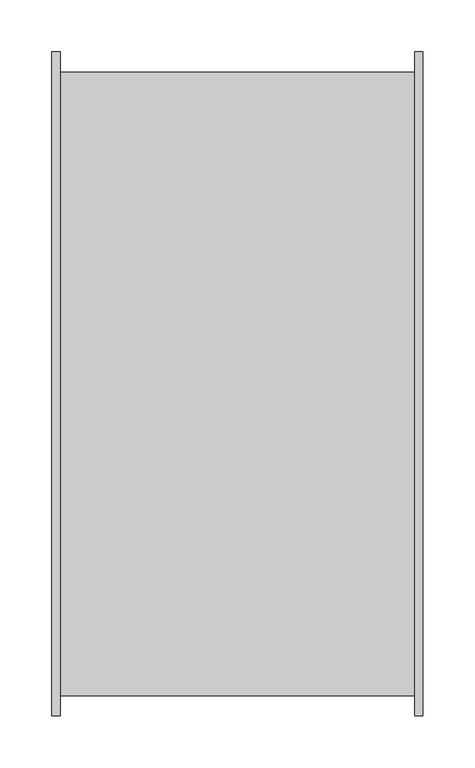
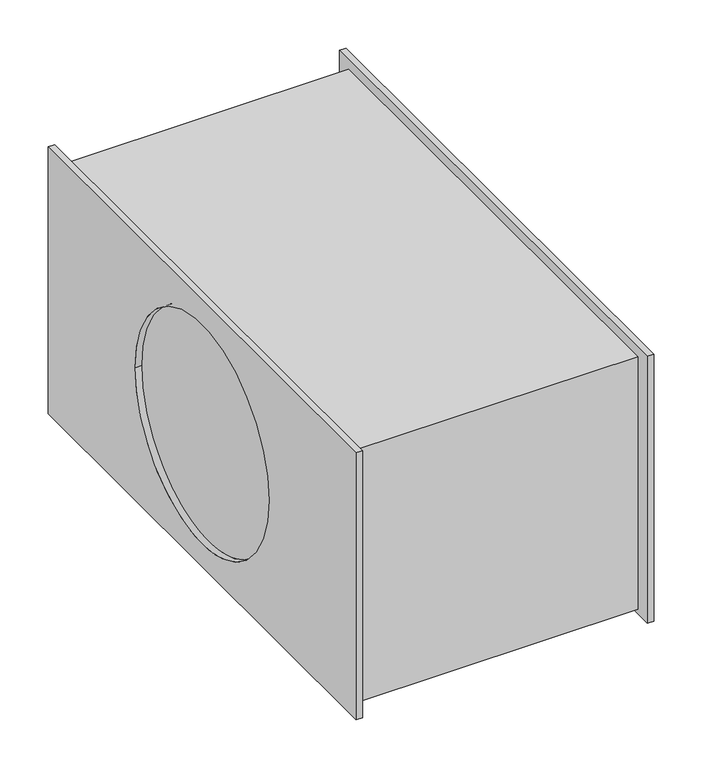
"""IFC4 building model written with IfcOpenShell, lengths in millimetres: unitary equipment geometry, VE-Wentylator-ParaForma-Harmann-JETTEC_REC-Nawiewny : 060/30/2400S."""

from ifc_helpers import new_model, si_unit, frame, origin, place, context, project, spatial, polyline, circle_curve, source, transform, mapped, element, save
from ifc_brep_helpers import plane_surface, revolved_surface, advanced_brep


def unitary_equipment_d5b170d1(model_context):
    return source(origin(), model_context, "Body", "AdvancedBrep", [
        advanced_brep(
        [(170.5, -319.5, -168.0), (170.5, -319.5, 170.0), (170.5, 319.5, 170.0), (170.5, 319.5, -168.0), (170.5, -300.0, 158.0), (170.5, -300.0, -162.0), (170.5, 300.0, -162.0), (170.5, 300.0, 158.0), (178.5, -319.5, -168.0), (178.5, 319.5, -168.0), (178.5, 319.5, 170.0), (178.5, -319.5, 170.0), (178.5, -138.75, 0.0), (178.5, 138.75, 0.0), (170.5, 138.75, 0.0), (170.5, -138.75, 0.0), (-170.5, -138.75, 0.0), (-170.5, 138.75, 0.0), (-170.5, -300.0, -162.0), (-170.5, -300.0, 158.0), (-170.5, 300.0, 158.0), (-170.5, 300.0, -162.0), (-178.5, -319.5, -168.0), (-178.5, -319.5, 170.0), (-178.5, 319.5, 170.0), (-178.5, 319.5, -168.0), (-178.5, 138.75, 0.0), (-178.5, -138.75, 0.0), (-170.5, -319.5, -168.0), (-170.5, 319.5, -168.0), (-170.5, 319.5, 170.0), (-170.5, -319.5, 170.0)],
        [
            (0, 1),
            (1, 2),
            (2, 3),
            (3, 0),
            (4, 5),
            (5, 6),
            (6, 7),
            (7, 4),
            (8, 9),
            (9, 10),
            (10, 11),
            (11, 8),
            (12, 13, circle_curve(frame((178.5, 0.0, 0.0), z_axis=(-1.0, 0.0, 0.0), x_axis=(0.0, 1.0, 0.0)), 138.75)),
            (13, 12, circle_curve(frame((178.5, 0.0, 0.0), z_axis=(-1.0, 0.0, 0.0), x_axis=(0.0, 1.0, 0.0)), 138.75)),
            (0, 8),
            (11, 1),
            (10, 2),
            (9, 3),
            (14, 13),
            (12, 15),
            (15, 14, circle_curve(frame((170.5, 0.0, 0.0), z_axis=(-1.0, 0.0, 0.0), x_axis=(0.0, 1.0, 0.0)), 138.75)),
            (14, 15, circle_curve(frame((170.5, 0.0, 0.0), z_axis=(-1.0, 0.0, 0.0), x_axis=(0.0, 1.0, 0.0)), 138.75)),
            (16, 17, circle_curve(frame((-170.5, 0.0, 0.0), z_axis=(-1.0, 0.0, 0.0), x_axis=(0.0, 1.0, 0.0)), 138.75)),
            (17, 16, circle_curve(frame((-170.5, 0.0, 0.0), z_axis=(-1.0, 0.0, 0.0), x_axis=(0.0, 1.0, 0.0)), 138.75)),
            (18, 5),
            (4, 19),
            (19, 18),
            (7, 20),
            (20, 19),
            (6, 21),
            (21, 20),
            (18, 21),
            (22, 23),
            (23, 24),
            (24, 25),
            (25, 22),
            (26, 27, circle_curve(frame((-178.5, 0.0, 0.0), z_axis=(1.0, 0.0, 0.0), x_axis=(0.0, 1.0, 0.0)), 138.75)),
            (27, 26, circle_curve(frame((-178.5, 0.0, 0.0), z_axis=(1.0, 0.0, 0.0), x_axis=(0.0, 1.0, 0.0)), 138.75)),
            (28, 29),
            (29, 30),
            (30, 31),
            (31, 28),
            (22, 28),
            (31, 23),
            (30, 24),
            (29, 25),
            (26, 17),
            (16, 27),
        ],
        [
            plane_surface(frame((170.5, 0.0, 0.0), z_axis=(-1.0, 0.0, 0.0), x_axis=(0.0, 0.0, 1.0))),
            plane_surface(frame((178.5, 0.0, 0.0), z_axis=(1.0, 0.0, 0.0), x_axis=(0.0, 0.0, 1.0))),
            plane_surface(frame((170.5, -319.5, -168.0), z_axis=(0.0, -1.0, 0.0), x_axis=(1.0, 0.0, 0.0))),
            plane_surface(frame((170.5, -319.5, 170.0), z_axis=(0.0, 0.0, 1.0), x_axis=(1.0, 0.0, 0.0))),
            plane_surface(frame((170.5, 319.5, 170.0), z_axis=(0.0, 1.0, 0.0), x_axis=(1.0, 0.0, 0.0))),
            plane_surface(frame((170.5, 319.5, -168.0), z_axis=(0.0, 0.0, -1.0), x_axis=(1.0, 0.0, 0.0))),
            revolved_surface(polyline([(170.5, 138.75, 0.0), (178.5, 138.75, 0.0)]), (170.5, 0.0, 0.0), (-1.0, 0.0, 0.0)),
            plane_surface(frame((-170.5, 0.0, 0.0), z_axis=(-1.0, 0.0, 0.0), x_axis=(0.0, 0.0, 1.0))),
            plane_surface(frame((170.5, 0.0, 0.0), z_axis=(1.0, 0.0, 0.0), x_axis=(0.0, 0.0, 1.0))),
            plane_surface(frame((-170.5, -300.0, -162.0), z_axis=(0.0, -1.0, 0.0), x_axis=(1.0, 0.0, 0.0))),
            plane_surface(frame((-170.5, -300.0, 158.0), z_axis=(0.0, 0.0, 1.0), x_axis=(1.0, 0.0, 0.0))),
            plane_surface(frame((-170.5, 300.0, 158.0), z_axis=(0.0, 1.0, 0.0), x_axis=(1.0, 0.0, 0.0))),
            plane_surface(frame((-170.5, 300.0, -162.0), z_axis=(0.0, 0.0, -1.0), x_axis=(1.0, 0.0, 0.0))),
            plane_surface(frame((-178.5, 0.0, 0.0), z_axis=(-1.0, 0.0, 0.0), x_axis=(0.0, 0.0, 1.0))),
            plane_surface(frame((-170.5, 0.0, 0.0), z_axis=(1.0, 0.0, 0.0), x_axis=(0.0, 0.0, 1.0))),
            plane_surface(frame((-178.5, -319.5, -168.0), z_axis=(0.0, -1.0, 0.0), x_axis=(1.0, 0.0, 0.0))),
            plane_surface(frame((-178.5, -319.5, 170.0), z_axis=(0.0, 0.0, 1.0), x_axis=(1.0, 0.0, 0.0))),
            plane_surface(frame((-178.5, 319.5, 170.0), z_axis=(0.0, 1.0, 0.0), x_axis=(1.0, 0.0, 0.0))),
            plane_surface(frame((-178.5, 319.5, -168.0), z_axis=(0.0, 0.0, -1.0), x_axis=(1.0, 0.0, 0.0))),
            revolved_surface(polyline([(-178.5, 138.75, 0.0), (-170.5, 138.75, 0.0)]), (-178.5, 0.0, 0.0), (-1.0, 0.0, 0.0)),
        ],
        [
            (0, [[1, 2, 3, 4], [5, 6, 7, 8]]),
            (1, [[9, 10, 11, 12], [13, 14]]),
            (2, [[-1, 15, -12, 16]]),
            (3, [[-2, -16, -11, 17]]),
            (4, [[-3, -17, -10, 18]]),
            (5, [[-4, -18, -9, -15]]),
            (6, [[19, -13, 20, 21]]),
            (6, [[-19, 22, -20, -14]]),
            (7, [[23, 24]]),
            (8, [[-21, -22]]),
            (9, [[25, -5, 26, 27]]),
            (10, [[-26, -8, 28, 29]]),
            (11, [[-28, -7, 30, 31]]),
            (12, [[-25, 32, -30, -6]]),
            (13, [[33, 34, 35, 36], [37, 38]]),
            (14, [[39, 40, 41, 42], [-27, -29, -31, -32]]),
            (15, [[-33, 43, -42, 44]]),
            (16, [[-34, -44, -41, 45]]),
            (17, [[-35, -45, -40, 46]]),
            (18, [[-36, -46, -39, -43]]),
            (19, [[47, -23, 48, -37]]),
            (19, [[-47, -38, -48, -24]]),
        ],
    ),
    ])


if __name__ == "__main__":
    model = new_model("IFC4")
    model_context = context("Model", 3, world=origin())
    ifc_project = project(units=[si_unit("LENGTHUNIT", "METRE", prefix="MILLI")], contexts=[model_context])
    site = spatial("IfcSite", under=ifc_project)
    building = spatial("IfcBuilding", under=site)
    placement = place(None, origin())
    unitary_equipment_shape = unitary_equipment_d5b170d1(model_context)
    element("IfcUnitaryEquipment", 1, ObjectType="VE-Wentylator-ParaForma-Harmann-JETTEC_REC-Nawiewny : 060/30/2400S", at=placement, inside=building, context=model_context, shape_type="MappedRepresentation", body=[
        mapped(unitary_equipment_shape, transform((0.0, 0.0, 0.0), x_axis=(1.0, 0.0, 0.0), y_axis=(0.0, 1.0, 0.0), z_axis=(0.0, 0.0, 1.0))),
    ])
    save(model, "model.ifc")
